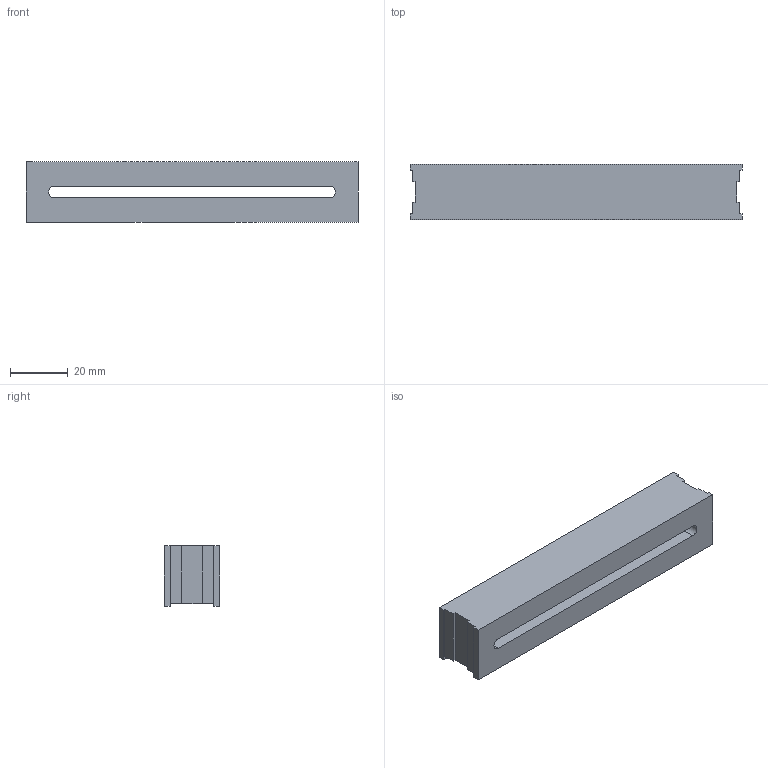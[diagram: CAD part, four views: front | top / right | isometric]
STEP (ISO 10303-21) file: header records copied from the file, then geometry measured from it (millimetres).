
FILE_DESCRIPTION (( 'STEP AP203' ), '1' );
FILE_NAME ('0000004468.STEP', '2014-11-18T14:28:49', ( 'user' ), ( '' ), 'SwSTEP 2.0', 'SolidWorks 2014', '' );
FILE_SCHEMA (( 'CONFIG_CONTROL_DESIGN' ));
Length unit declared in the file: millimetre
Products named in the file (1): 0000004468
Bounding box: 114.5 x 19 x 21 mm (x, y, z)
Volume: 35763.2 mm3; surface area: 13286 mm2
Topology: 1 solids, 1 shells, 26 faces, 72 edges, 48 vertices
Faces by surface type: plane 24, cylinder 2
Entity records: 901 total; most frequent: CARTESIAN_POINT 147, ORIENTED_EDGE 144, DIRECTION 130, EDGE_CURVE 72, VECTOR 68, LINE 68, VERTEX_POINT 48, AXIS2_PLACEMENT_3D 31
